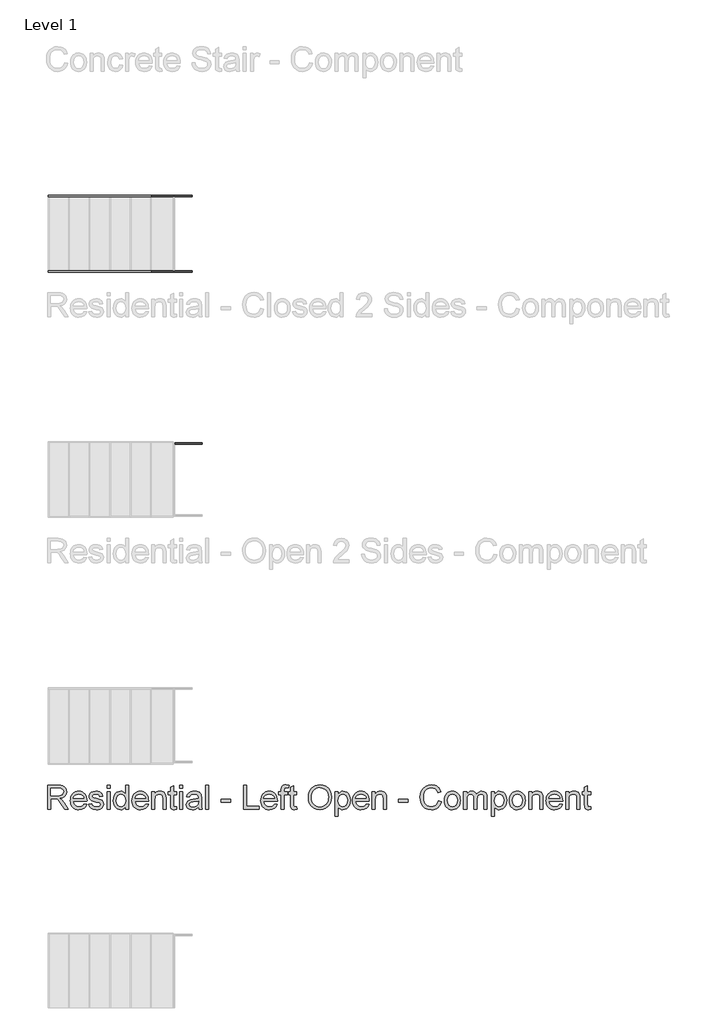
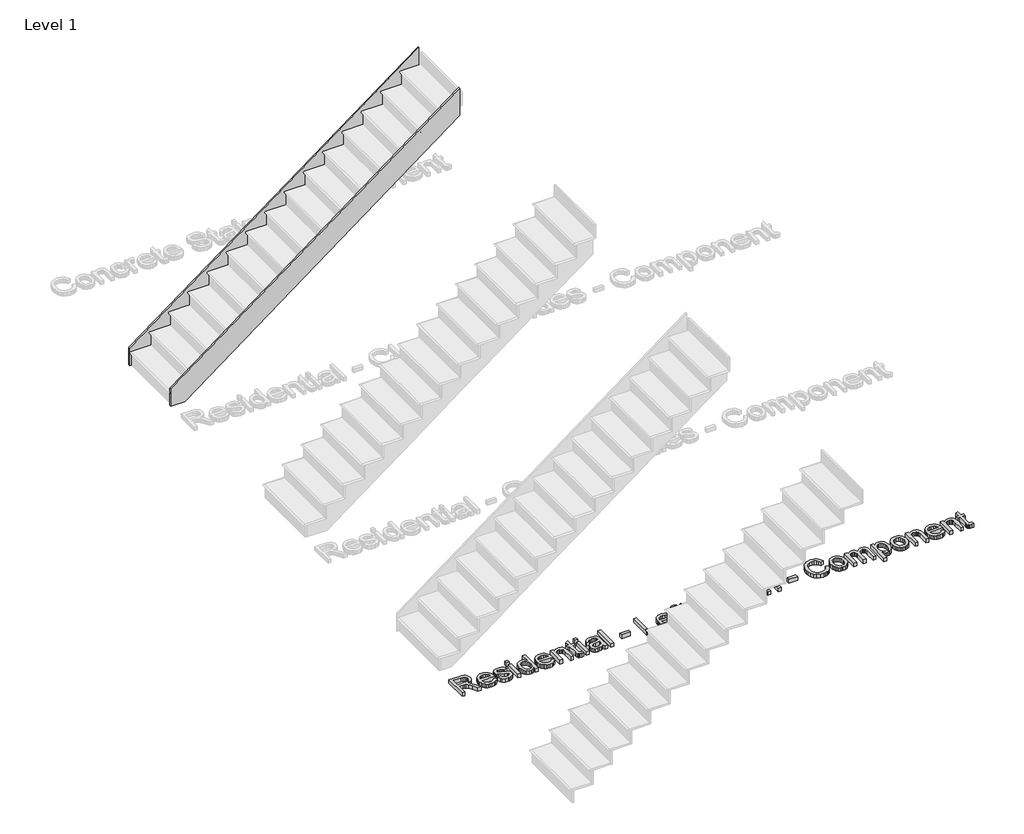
# One storey, part 14 of 26: 3 members, 1 proxy.
"""IFC4 building model written with IfcOpenShell, lengths in millimetres."""

from ifc_helpers import new_model, si_unit, frame, origin, origin_with_axes, place, context, project, spatial, polyline, outline, extrude, faceted_brep, element, save

model = new_model("IFC4")

# Units and contexts
model_context = context("Model", 3, world=origin())
ifc_project = project(units=[si_unit("LENGTHUNIT", "METRE", prefix="MILLI")], contexts=[model_context])

# Site, building, storey
site = spatial("IfcSite", under=ifc_project)
building = spatial("IfcBuilding", under=site)
storey = spatial("IfcBuildingStorey", under=building, Name="Level 1", Elevation=0.0)

# Proxy
placement = place(None, origin())
element("IfcBuildingElementProxy", 1, Name="12\" Arial", ObjectType="12\" Arial", at=placement, inside=storey, context=model_context, shape_type="SweptSolid", body=[
    extrude(outline(polyline([(-27238.310174, 321.1208755), (-27238.310174, 621.2316447), (-27108.9899817, 621.2316447), (-27074.2328904, 619.2075822), (-27048.9458471, 613.1353947), (-27030.4636837, 601.9252024), (-27016.1212317, 584.4871255), (-27006.9167846, 562.8635438), (-27003.8486356, 539.096837), (-27008.9316885, 509.5327024), (-27024.1808471, 485.0241447), (-27035.7321993, 475.0366327), (-27050.0540442, 467.0548659), (-27087.0092125, 457.1085678), (-27065.6878664, 441.0626063), (-27035.2811356, 402.4497216), (-26985.238251, 321.1208755), (-27028.8334433, 321.1208755), (-27067.8859433, 383.3264524), (-27096.0945971, 424.5037601), (-27115.913924, 443.9567409), (-27133.7549817, 451.1004909), (-27155.5159433, 452.419337), (-27200.7963279, 452.419337), (-27200.7963279, 321.1208755), (-27238.310174, 321.1208755)]), holes=[polyline([(-27200.7963279, 489.9331832), (-27116.8297894, 489.9331832), (-27092.7150539, 491.261188), (-27074.003924, 495.2452024), (-27059.9179144, 502.1508274), (-27049.6785394, 512.2436639), (-27043.4414962, 524.4521495), (-27041.3624817, 537.7047216), (-27045.3281789, 556.003712), (-27057.2252702, 570.7491447), (-27077.6948615, 580.4756351), (-27107.3780587, 583.7177986), (-27200.7963279, 583.7177986), (-27200.7963279, 489.9331832)])]), origin_with_axes(), (0.0, 0.0, 1.0), 50.8),
    extrude(outline(polyline([(-26788.5836356, 386.7701063), (-26751.8024817, 382.0808755), (-26765.0550539, 354.3667889), (-26786.2023856, 333.6499139), (-26814.7682269, 320.736212), (-26850.2763279, 316.4316447), (-26873.5530466, 318.2885618), (-26894.2928183, 323.859313), (-26912.4956428, 333.1438983), (-26928.1615202, 346.1423178), (-26940.7592486, 362.4928046), (-26949.757626, 381.8335918), (-26955.1566524, 404.1646796), (-26956.9563279, 429.4860678), (-26955.1383351, 455.6660798), (-26949.6843567, 478.7413082), (-26940.5943928, 498.7117529), (-26927.8684433, 515.5774139), (-26912.2437798, 528.9765245), (-26894.457674, 538.5473178), (-26874.510126, 544.2897938), (-26852.4011356, 546.2039524), (-26831.0042305, 544.2943731), (-26811.6542846, 538.5656351), (-26794.3512978, 529.0177385), (-26779.0952702, 515.6506832), (-26766.6417906, 498.8216567), (-26757.7464481, 478.8878466), (-26752.4092426, 455.8492529), (-26750.630174, 429.7058755), (-26750.8499817, 419.5947216), (-26919.4424817, 419.5947216), (-26912.9489962, 391.5142889), (-26897.8646933, 370.8706832), (-26876.0945731, 358.1767889), (-26849.5436356, 353.9454909), (-26829.5777702, 355.9054428), (-26812.7624817, 361.7852986), (-26799.0977702, 371.9514043), (-26788.5836356, 386.7701063)]), holes=[polyline([(-26919.4424817, 457.1085678), (-26788.1440202, 457.1085678), (-26793.2179144, 476.9278947), (-26803.1642125, 491.1054909), (-26825.0350779, 504.2939524), (-26852.547674, 508.6901063), (-26877.8347173, 505.1823418), (-26898.743924, 494.6590486), (-26913.2787077, 478.2558995), (-26919.4424817, 457.1085678)])]), origin_with_axes(), (0.0, 0.0, 1.0), 50.8),
    extrude(outline(polyline([(-26727.1840202, 386.7701063), (-26689.670174, 391.459337), (-26683.7536837, 375.4133755), (-26672.3053664, 363.6170293), (-26655.2519529, 356.3633755), (-26632.520174, 353.9454909), (-26610.0631548, 356.1618851), (-26594.2736356, 362.8110678), (-26584.9318087, 372.4459716), (-26581.8178664, 383.6195293), (-26584.950126, 393.1811639), (-26594.3469048, 400.4714524), (-26632.9597894, 411.1687601), (-26689.4503664, 429.5227024), (-26703.747025, 438.7454668), (-26714.1054625, 450.9539524), (-26720.3974577, 465.3696736), (-26722.4947894, 481.2141447), (-26720.8095971, 495.7489284), (-26715.7540202, 509.1663563), (-26707.7859914, 520.9352264), (-26697.3634433, 530.524337), (-26673.5143087, 541.6246255), (-26641.2392125, 546.2039524), (-26616.8222414, 544.363063), (-26595.5924817, 538.8403947), (-26578.520751, 530.1763082), (-26566.5778664, 518.9111639), (-26558.6647894, 504.2115245), (-26553.6824817, 485.2439524), (-26591.1963279, 480.5547216), (-26595.9313519, 492.3602264), (-26605.3006548, 501.2532793), (-26619.3958231, 506.8308995), (-26638.3084433, 508.6901063), (-26659.8495971, 506.9133274), (-26674.2103664, 501.5829909), (-26682.288299, 493.8897216), (-26684.9809433, 485.0241447), (-26680.5115202, 474.1070293), (-26666.5170971, 465.8276063), (-26634.2053664, 457.8412601), (-26579.1435394, 440.1833755), (-26564.5995971, 431.7390966), (-26553.5725779, 420.1808755), (-26546.6211596, 405.4720774), (-26544.3040202, 387.5760678), (-26547.0241404, 369.075587), (-26555.184501, 351.6741447), (-26568.4737077, 336.7363803), (-26586.5803664, 325.6269332), (-26608.4512317, 318.7304668), (-26633.0330587, 316.4316447), (-26670.858299, 320.8644332), (-26698.4624817, 334.1627986), (-26716.8896933, 356.1802024), (-26727.1840202, 386.7701063)])), origin_with_axes(), (0.0, 0.0, 1.0), 50.8),
    extrude(outline(polyline([(-26502.1009433, 321.1208755), (-26502.1009433, 541.5147216), (-26464.5870971, 541.5147216), (-26464.5870971, 321.1208755), (-26502.1009433, 321.1208755)])), origin_with_axes(), (0.0, 0.0, 1.0), 50.8),
    extrude(outline(polyline([(-26502.1009433, 583.7177986), (-26502.1009433, 621.2316447), (-26464.5870971, 621.2316447), (-26464.5870971, 583.7177986), (-26502.1009433, 583.7177986)])), origin_with_axes(), (0.0, 0.0, 1.0), 50.8),
    extrude(outline(polyline([(-26272.3286356, 321.1208755), (-26272.3286356, 356.5099139), (-26283.5525659, 338.9756712), (-26297.1485875, 326.451212), (-26313.1167005, 318.9365365), (-26331.4569048, 316.4316447), (-26355.7090202, 320.0584716), (-26377.9095971, 330.9389524), (-26396.7031548, 348.3129188), (-26410.7342125, 371.4202024), (-26419.4715683, 399.3266207), (-26422.3840202, 431.0979909), (-26419.7005346, 462.4755389), (-26411.6500779, 490.8124139), (-26398.2418087, 514.4966928), (-26379.4848856, 531.9164524), (-26356.7989, 542.6320774), (-26331.6034433, 546.2039524), (-26313.249501, 543.648688), (-26297.0203664, 535.9828947), (-26283.2640683, 524.2323418), (-26272.3286356, 509.4227986), (-26272.3286356, 621.2316447), (-26234.8147894, 621.2316447), (-26234.8147894, 321.1208755), (-26272.3286356, 321.1208755)]), holes=[polyline([(-26384.870174, 431.2445293), (-26380.638876, 397.3117168), (-26367.9449817, 373.1786639), (-26349.4994529, 358.7537841), (-26328.013251, 353.9454909), (-26306.5362077, 358.5339764), (-26288.5577702, 372.2994332), (-26276.3859192, 395.4983034), (-26272.3286356, 428.3870293), (-26276.4591885, 464.3439043), (-26288.8508471, 489.2737601), (-26307.2872173, 503.8360197), (-26329.5519048, 508.6901063), (-26351.2579144, 504.0283514), (-26369.0440202, 490.043087), (-26380.9136356, 466.019938), (-26384.870174, 431.2445293)])]), origin_with_axes(), (0.0, 0.0, 1.0), 50.8),
    extrude(outline(polyline([(-26024.2390202, 386.7701063), (-25987.4578664, 382.0808755), (-26000.7104385, 354.3667889), (-26021.8577702, 333.6499139), (-26050.4236115, 320.736212), (-26085.9317125, 316.4316447), (-26109.2084313, 318.2885618), (-26129.9482029, 323.859313), (-26148.1510274, 333.1438983), (-26163.8169048, 346.1423178), (-26176.4146332, 362.4928046), (-26185.4130106, 381.8335918), (-26190.812037, 404.1646796), (-26192.6117125, 429.4860678), (-26190.7937197, 455.6660798), (-26185.3397414, 478.7413082), (-26176.2497774, 498.7117529), (-26163.5238279, 515.5774139), (-26147.8991644, 528.9765245), (-26130.1130587, 538.5473178), (-26110.1655106, 544.2897938), (-26088.0565202, 546.2039524), (-26066.6596152, 544.2943731), (-26047.3096692, 538.5656351), (-26030.0066825, 529.0177385), (-26014.7506548, 515.6506832), (-26002.2971753, 498.8216567), (-25993.4018327, 478.8878466), (-25988.0646272, 455.8492529), (-25986.2855587, 429.7058755), (-25986.5053664, 419.5947216), (-26155.0978664, 419.5947216), (-26148.6043808, 391.5142889), (-26133.5200779, 370.8706832), (-26111.7499577, 358.1767889), (-26085.1990202, 353.9454909), (-26065.2331548, 355.9054428), (-26048.4178664, 361.7852986), (-26034.7531548, 371.9514043), (-26024.2390202, 386.7701063)]), holes=[polyline([(-26155.0978664, 457.1085678), (-26023.7994048, 457.1085678), (-26028.873299, 476.9278947), (-26038.8195971, 491.1054909), (-26060.6904625, 504.2939524), (-26088.2030587, 508.6901063), (-26113.4901019, 505.1823418), (-26134.3993087, 494.6590486), (-26148.9340923, 478.2558995), (-26155.0978664, 457.1085678)])]), origin_with_axes(), (0.0, 0.0, 1.0), 50.8),
    extrude(outline(polyline([(-25948.7717125, 321.1208755), (-25948.7717125, 541.5147216), (-25911.2578664, 541.5147216), (-25911.2578664, 510.7416447), (-25898.2251019, 526.2564043), (-25882.5729625, 537.3383755), (-25864.3014481, 543.9875582), (-25843.4105587, 546.2039524), (-25824.9192365, 544.4180149), (-25807.9848856, 539.0602024), (-25793.8622414, 530.7990966), (-25783.8060394, 520.3032793), (-25772.5592125, 492.7174139), (-25770.5809433, 456.4491447), (-25770.5809433, 321.1208755), (-25808.0947894, 321.1208755), (-25808.0947894, 451.3935678), (-25812.417674, 484.5845293), (-25818.398275, 494.4667168), (-25827.6943087, 502.1325101), (-25839.6097173, 507.0507072), (-25853.4484433, 508.6901063), (-25875.4200539, 505.0083274), (-25894.149501, 493.9629909), (-25901.6344108, 484.9462962), (-25906.980775, 472.6233274), (-25911.2578664, 438.0585678), (-25911.2578664, 321.1208755), (-25948.7717125, 321.1208755)])), origin_with_axes(), (0.0, 0.0, 1.0), 50.8),
    extrude(outline(polyline([(-25639.2824817, 352.406837), (-25634.593251, 320.021837), (-25662.6553664, 316.4316447), (-25680.6612798, 317.9886159), (-25694.0878664, 322.6595293), (-25703.5762317, 329.8582313), (-25709.7674817, 338.9985678), (-25713.174501, 354.6965005), (-25714.310174, 381.5679909), (-25714.310174, 504.0008755), (-25742.4455587, 504.0008755), (-25742.4455587, 541.5147216), (-25714.310174, 541.5147216), (-25714.310174, 595.0745293), (-25676.7963279, 617.1285678), (-25676.7963279, 541.5147216), (-25639.2824817, 541.5147216), (-25639.2824817, 504.0008755), (-25676.7963279, 504.0008755), (-25676.7963279, 382.6670293), (-25674.8180587, 363.3239524), (-25668.407001, 356.4732793), (-25655.6215202, 353.9454909), (-25639.2824817, 352.406837)])), origin_with_axes(), (0.0, 0.0, 1.0), 50.8),
    extrude(outline(polyline([(-25601.7686356, 321.1208755), (-25601.7686356, 541.5147216), (-25564.2547894, 541.5147216), (-25564.2547894, 321.1208755), (-25601.7686356, 321.1208755)])), origin_with_axes(), (0.0, 0.0, 1.0), 50.8),
    extrude(outline(polyline([(-25601.7686356, 583.7177986), (-25601.7686356, 621.2316447), (-25564.2547894, 621.2316447), (-25564.2547894, 583.7177986), (-25601.7686356, 583.7177986)])), origin_with_axes(), (0.0, 0.0, 1.0), 50.8),
    extrude(outline(polyline([(-25367.3070971, 349.2562601), (-25385.2305827, 333.8880389), (-25403.6852702, 323.831837), (-25423.0924577, 318.2816928), (-25443.8734433, 316.4316447), (-25475.2235154, 320.8827505), (-25498.3491164, 334.2360678), (-25512.6091404, 354.5133274), (-25517.3624817, 379.7362601), (-25515.5673856, 395.2876543), (-25510.1820971, 409.4102986), (-25501.8751981, 421.4997216), (-25491.3152702, 430.9514524), (-25465.048251, 443.2606832), (-25432.5899817, 448.9024139), (-25394.2335394, 454.8372216), (-25367.5269048, 461.7977986), (-25367.3070971, 470.1504909), (-25369.8898375, 486.8925101), (-25377.6380587, 497.8462601), (-25394.9662317, 505.9791447), (-25419.1084433, 508.6901063), (-25441.4555587, 506.8858514), (-25457.0619048, 501.473087), (-25467.7042606, 491.4626784), (-25475.1594048, 475.8654909), (-25512.673251, 480.5547216), (-25506.1614481, 501.0701063), (-25496.4441164, 517.189337), (-25482.614549, 529.5168851), (-25463.7660394, 538.6572216), (-25440.7137077, 544.3172697), (-25414.272674, 546.2039524), (-25388.9123615, 544.5370774), (-25368.8091164, 539.5364524), (-25353.6515442, 532.0171976), (-25343.128251, 522.7944332), (-25336.1493567, 511.3919091), (-25331.6249817, 497.3333755), (-25329.793251, 464.5087601), (-25329.793251, 417.8362601), (-25327.888251, 352.6632793), (-25320.4147894, 321.1208755), (-25357.9286356, 321.1208755), (-25367.3070971, 349.2562601)]), holes=[polyline([(-25367.3070971, 424.2839524), (-25427.8274817, 412.7806832), (-25460.1025779, 406.699337), (-25474.7197894, 396.8079909), (-25479.8486356, 382.3739524), (-25477.0552462, 371.218712), (-25468.6750779, 362.0783755), (-25454.8913039, 355.978712), (-25435.8870971, 353.9454909), (-25415.7380587, 356.1893611), (-25397.9336356, 362.9209716), (-25383.4995971, 372.8397938), (-25373.4617125, 384.6452986), (-25369.0106067, 396.8079909), (-25367.5269048, 413.6599139), (-25367.3070971, 424.2839524)])]), origin_with_axes(), (0.0, 0.0, 1.0), 50.8),
    extrude(outline(polyline([(-25278.2117125, 321.1208755), (-25278.2117125, 621.2316447), (-25240.6978664, 621.2316447), (-25240.6978664, 321.1208755), (-25278.2117125, 321.1208755)])), origin_with_axes(), (0.0, 0.0, 1.0), 50.8),
    extrude(outline(polyline([(-25085.953251, 410.2162601), (-25085.953251, 447.7301063), (-24968.7224817, 447.7301063), (-24968.7224817, 410.2162601), (-25085.953251, 410.2162601)])), origin_with_axes(), (0.0, 0.0, 1.0), 50.8),
    extrude(outline(polyline([(-24804.5994048, 321.1208755), (-24804.5994048, 621.2316447), (-24767.0855587, 621.2316447), (-24767.0855587, 358.6347216), (-24617.030174, 358.6347216), (-24617.030174, 321.1208755), (-24804.5994048, 321.1208755)])), origin_with_axes(), (0.0, 0.0, 1.0), 50.8),
    extrude(outline(polyline([(-24425.2113279, 386.7701063), (-24388.430174, 382.0808755), (-24401.6827462, 354.3667889), (-24422.8300779, 333.6499139), (-24451.3959192, 320.736212), (-24486.9040202, 316.4316447), (-24510.180739, 318.2885618), (-24530.9205106, 323.859313), (-24549.1233351, 333.1438983), (-24564.7892125, 346.1423178), (-24577.3869409, 362.4928046), (-24586.3853183, 381.8335918), (-24591.7843447, 404.1646796), (-24593.5840202, 429.4860678), (-24591.7660274, 455.6660798), (-24586.312049, 478.7413082), (-24577.2220851, 498.7117529), (-24564.4961356, 515.5774139), (-24548.8714721, 528.9765245), (-24531.0853664, 538.5473178), (-24511.1378183, 544.2897938), (-24489.0288279, 546.2039524), (-24467.6319228, 544.2943731), (-24448.2819769, 538.5656351), (-24430.9789902, 529.0177385), (-24415.7229625, 515.6506832), (-24403.2694829, 498.8216567), (-24394.3741404, 478.8878466), (-24389.0369349, 455.8492529), (-24387.2578664, 429.7058755), (-24387.477674, 419.5947216), (-24556.070174, 419.5947216), (-24549.5766885, 391.5142889), (-24534.4923856, 370.8706832), (-24512.7222654, 358.1767889), (-24486.1713279, 353.9454909), (-24466.2054625, 355.9054428), (-24449.390174, 361.7852986), (-24435.7254625, 371.9514043), (-24425.2113279, 386.7701063)]), holes=[polyline([(-24556.070174, 457.1085678), (-24424.7717125, 457.1085678), (-24429.8456067, 476.9278947), (-24439.7919048, 491.1054909), (-24461.6627702, 504.2939524), (-24489.1753664, 508.6901063), (-24514.4624096, 505.1823418), (-24535.3716164, 494.6590486), (-24549.9064, 478.2558995), (-24556.070174, 457.1085678)])]), origin_with_axes(), (0.0, 0.0, 1.0), 50.8),
    extrude(outline(polyline([(-24340.3655587, 321.1208755), (-24340.3655587, 504.0008755), (-24373.190174, 504.0008755), (-24373.190174, 541.5147216), (-24340.3655587, 541.5147216), (-24340.3655587, 563.7152986), (-24336.4090202, 595.0012601), (-24328.8622894, 607.4753466), (-24317.2124817, 617.3483755), (-24300.9100779, 623.7777505), (-24279.4055587, 625.9208755), (-24245.1888279, 621.8177986), (-24250.6840202, 586.6485678), (-24272.2984433, 588.4070293), (-24286.5584673, 586.8500582), (-24295.9277702, 582.1791447), (-24301.1207269, 573.2586159), (-24302.8517125, 558.9527986), (-24302.8517125, 541.5147216), (-24260.6486356, 541.5147216), (-24260.6486356, 504.0008755), (-24302.8517125, 504.0008755), (-24302.8517125, 321.1208755), (-24340.3655587, 321.1208755)])), origin_with_axes(), (0.0, 0.0, 1.0), 50.8),
    extrude(outline(polyline([(-24148.1070971, 352.406837), (-24143.4178664, 320.021837), (-24171.4799817, 316.4316447), (-24189.4858952, 317.9886159), (-24202.9124817, 322.6595293), (-24212.4008471, 329.8582313), (-24218.5920971, 338.9985678), (-24221.9991164, 354.6965005), (-24223.1347894, 381.5679909), (-24223.1347894, 504.0008755), (-24251.270174, 504.0008755), (-24251.270174, 541.5147216), (-24223.1347894, 541.5147216), (-24223.1347894, 595.0745293), (-24185.6209433, 617.1285678), (-24185.6209433, 541.5147216), (-24148.1070971, 541.5147216), (-24148.1070971, 504.0008755), (-24185.6209433, 504.0008755), (-24185.6209433, 382.6670293), (-24183.642674, 363.3239524), (-24177.2316164, 356.4732793), (-24164.4461356, 353.9454909), (-24148.1070971, 352.406837)])), origin_with_axes(), (0.0, 0.0, 1.0), 50.8),
    extrude(outline(polyline([(-24002.7409433, 467.2197216), (-24000.2406308, 502.4210077), (-23992.7396933, 533.5833274), (-23980.2381308, 560.7066808), (-23962.7359433, 583.7910678), (-23941.2817966, 602.2228587), (-23916.9243567, 615.3884236), (-23889.6636236, 623.2877625), (-23859.4995971, 625.9208755), (-23820.1357029, 620.9752024), (-23784.838251, 606.1381832), (-23755.5305587, 582.4539043), (-23734.1359433, 550.9664524), (-23721.0573856, 513.1961639), (-23716.6978664, 470.6633755), (-23721.2863519, 427.5627505), (-23735.0518087, 389.2612601), (-23757.2340683, 357.7188563), (-23787.0729625, 334.8954909), (-23822.0681789, 321.0476063), (-23859.7194048, 316.4316447), (-23899.6877702, 321.5330149), (-23935.1867125, 336.8371255), (-23964.4211356, 360.9610197), (-23985.5959433, 392.5217409), (-23998.4546933, 428.8358034), (-24002.7409433, 467.2197216)]), holes=[polyline([(-23965.2270971, 466.8533755), (-23963.3518628, 441.983051), (-23957.7261596, 419.9061159), (-23948.3499878, 400.6225702), (-23935.2233471, 384.1324139), (-23919.2666825, 370.9256351), (-23901.4004385, 361.4922216), (-23881.6246152, 355.8321736), (-23859.9392125, 353.9454909), (-23837.8828844, 355.8504909), (-23817.8735154, 361.5654909), (-23799.9111055, 371.0904909), (-23783.9956548, 384.4254909), (-23770.9651801, 401.263676), (-23761.6576981, 421.2982313), (-23756.0732089, 444.5291567), (-23754.2117125, 470.9564524), (-23757.398924, 504.1657313), (-23766.9605587, 532.8689524), (-23782.6493327, 556.3425822), (-23804.2179625, 573.863087), (-23830.2376981, 584.7710438), (-23859.2797894, 588.4070293), (-23880.2118928, 586.6554368), (-23899.6328183, 581.4006591), (-23917.5425659, 572.6426964), (-23933.9411356, 560.3815486), (-23947.6287438, 544.0264825), (-23957.4056067, 522.9867649), (-23963.2717245, 497.2623959), (-23965.2270971, 466.8533755)])]), origin_with_axes(), (0.0, 0.0, 1.0), 50.8),
    extrude(outline(polyline([(-23669.8055587, 236.7147216), (-23669.8055587, 541.5147216), (-23632.2917125, 541.5147216), (-23632.2917125, 504.7335678), (-23620.055751, 522.8768611), (-23606.3544048, 535.8363563), (-23590.3817125, 543.6120534), (-23571.3317125, 546.2039524), (-23545.9622414, 542.5771255), (-23523.7799817, 531.6966447), (-23505.7191164, 514.2219332), (-23492.7138279, 490.8124139), (-23484.8557029, 463.1715966), (-23482.2363279, 433.0029909), (-23485.1945731, 400.9202264), (-23494.0693087, 372.2261639), (-23508.5766164, 348.3770293), (-23528.4325779, 330.8290486), (-23551.5581789, 320.0309957), (-23575.8744048, 316.4316447), (-23593.12015, 318.8403707), (-23608.5158471, 326.0665486), (-23621.69515, 336.9745053), (-23632.2917125, 350.4285678), (-23632.2917125, 236.7147216), (-23669.8055587, 236.7147216)]), holes=[polyline([(-23632.2917125, 429.559337), (-23628.2344289, 395.9287601), (-23616.0625779, 372.409337), (-23598.1024577, 358.5614524), (-23576.6803664, 353.9454909), (-23554.9102462, 358.7263082), (-23536.4921933, 373.0687601), (-23523.9356789, 397.4490966), (-23519.750174, 432.3435678), (-23523.8349337, 465.7909716), (-23536.0892125, 489.6401063), (-23554.0218567, 503.9276063), (-23575.1417125, 508.6901063), (-23596.3439962, 503.6253707), (-23614.9635394, 488.4311639), (-23627.9596692, 463.5837361), (-23632.2917125, 429.559337)])]), origin_with_axes(), (0.0, 0.0, 1.0), 50.8),
    extrude(outline(polyline([(-23285.728251, 386.7701063), (-23248.9470971, 382.0808755), (-23262.1996692, 354.3667889), (-23283.347001, 333.6499139), (-23311.9128423, 320.736212), (-23347.4209433, 316.4316447), (-23370.697662, 318.2885618), (-23391.4374337, 323.859313), (-23409.6402582, 333.1438983), (-23425.3061356, 346.1423178), (-23437.903864, 362.4928046), (-23446.9022414, 381.8335918), (-23452.3012678, 404.1646796), (-23454.1009433, 429.4860678), (-23452.2829505, 455.6660798), (-23446.8289721, 478.7413082), (-23437.7390082, 498.7117529), (-23425.0130587, 515.5774139), (-23409.3883952, 528.9765245), (-23391.6022894, 538.5473178), (-23371.6547414, 544.2897938), (-23349.545751, 546.2039524), (-23328.1488459, 544.2943731), (-23308.7989, 538.5656351), (-23291.4959132, 529.0177385), (-23276.2398856, 515.6506832), (-23263.786406, 498.8216567), (-23254.8910635, 478.8878466), (-23249.5538579, 455.8492529), (-23247.7747894, 429.7058755), (-23247.9945971, 419.5947216), (-23416.5870971, 419.5947216), (-23410.0936115, 391.5142889), (-23395.0093087, 370.8706832), (-23373.2391885, 358.1767889), (-23346.688251, 353.9454909), (-23326.7223856, 355.9054428), (-23309.9070971, 361.7852986), (-23296.2423856, 371.9514043), (-23285.728251, 386.7701063)]), holes=[polyline([(-23416.5870971, 457.1085678), (-23285.2886356, 457.1085678), (-23290.3625298, 476.9278947), (-23300.3088279, 491.1054909), (-23322.1796933, 504.2939524), (-23349.6922894, 508.6901063), (-23374.9793327, 505.1823418), (-23395.8885394, 494.6590486), (-23410.4233231, 478.2558995), (-23416.5870971, 457.1085678)])]), origin_with_axes(), (0.0, 0.0, 1.0), 50.8),
    extrude(outline(polyline([(-23210.2609433, 321.1208755), (-23210.2609433, 541.5147216), (-23172.7470971, 541.5147216), (-23172.7470971, 510.7416447), (-23159.7143327, 526.2564043), (-23144.0621933, 537.3383755), (-23125.7906789, 543.9875582), (-23104.8997894, 546.2039524), (-23086.4084673, 544.4180149), (-23069.4741164, 539.0602024), (-23055.3514721, 530.7990966), (-23045.2952702, 520.3032793), (-23034.0484433, 492.7174139), (-23032.070174, 456.4491447), (-23032.070174, 321.1208755), (-23069.5840202, 321.1208755), (-23069.5840202, 451.3935678), (-23073.9069048, 484.5845293), (-23079.8875058, 494.4667168), (-23089.1835394, 502.1325101), (-23101.0989481, 507.0507072), (-23114.937674, 508.6901063), (-23136.9092846, 505.0083274), (-23155.6387317, 493.9629909), (-23163.1236416, 484.9462962), (-23168.4700058, 472.6233274), (-23172.7470971, 438.0585678), (-23172.7470971, 321.1208755), (-23210.2609433, 321.1208755)])), origin_with_axes(), (0.0, 0.0, 1.0), 50.8),
    extrude(outline(polyline([(-22882.0147894, 410.2162601), (-22882.0147894, 447.7301063), (-22764.7840202, 447.7301063), (-22764.7840202, 410.2162601), (-22882.0147894, 410.2162601)])), origin_with_axes(), (0.0, 0.0, 1.0), 50.8),
    extrude(outline(polyline([(-22389.6455587, 427.8008755), (-22352.1317125, 418.129337), (-22359.5548015, 394.799956), (-22369.4415683, 374.4150822), (-22381.792013, 356.9747156), (-22396.6061356, 342.4788563), (-22413.5496452, 331.0832012), (-22432.288251, 322.9434476), (-22452.8219529, 318.0595954), (-22475.150751, 316.4316447), (-22518.6635154, 321.3590005), (-22553.2191164, 336.1410678), (-22579.7059433, 360.264962), (-22599.0123856, 393.2177986), (-22610.7995731, 431.9589043), (-22614.7286356, 473.4476063), (-22610.2866885, 517.2076543), (-22596.9608471, 554.9962601), (-22575.4471692, 585.6136399), (-22546.4417125, 607.8600101), (-22512.0418087, 621.4056591), (-22474.3447894, 625.9208755), (-22433.213275, 620.0776543), (-22415.3195551, 612.7736279), (-22399.2071933, 602.5479909), (-22385.1417906, 589.6709236), (-22373.3889481, 574.4126063), (-22356.8209433, 536.7522216), (-22394.3347894, 527.8133755), (-22407.3400779, 555.1702745), (-22425.1078664, 573.9363563), (-22447.8579625, 584.7893611), (-22475.810174, 588.4070293), (-22508.0303183, 584.3955389), (-22534.4988279, 572.3610678), (-22554.5837558, 553.5675101), (-22567.6531548, 529.2787601), (-22574.8243808, 501.8211159), (-22577.2147894, 473.5208755), (-22574.3847654, 438.8645293), (-22565.8946933, 408.8974139), (-22551.4240202, 384.7643611), (-22530.6521933, 367.6102024), (-22505.7498135, 357.3616688), (-22478.8874817, 353.9454909), (-22447.5740442, 358.598087), (-22421.4810394, 372.5558755), (-22401.780775, 395.6723178), (-22389.6455587, 427.8008755)])), origin_with_axes(), (0.0, 0.0, 1.0), 50.8),
    extrude(outline(polyline([(-22314.6178664, 431.3177986), (-22312.5892245, 459.8607433), (-22306.503299, 484.4563082), (-22296.3600899, 505.1044933), (-22282.1595971, 521.8052986), (-22267.8629385, 532.4797096), (-22252.0825779, 540.1042889), (-22234.8185154, 544.6790365), (-22216.070751, 546.2039524), (-22195.3744829, 544.3470353), (-22176.6610635, 538.7762841), (-22159.9304926, 529.4916988), (-22145.1827702, 516.4932793), (-22133.1460094, 500.2206411), (-22124.5483231, 481.1133995), (-22119.3897113, 459.1715546), (-22117.670174, 434.3951063), (-22120.7108471, 396.4965966), (-22129.8328664, 367.646837), (-22144.7706308, 346.0415726), (-22165.2585394, 329.8765486), (-22189.5930827, 319.7928707), (-22216.070751, 316.4316447), (-22237.0692546, 318.2816928), (-22255.9566885, 323.831837), (-22272.7330527, 333.0820774), (-22287.3983471, 346.0324139), (-22299.3068868, 362.4630389), (-22307.8129865, 382.1541447), (-22312.9166464, 405.1057313), (-22314.6178664, 431.3177986)]), holes=[polyline([(-22277.1040202, 431.3910678), (-22272.7628183, 397.439938), (-22259.7392125, 373.2519332), (-22240.1396933, 358.7721014), (-22216.070751, 353.9454909), (-22192.1117125, 358.7995774), (-22172.5488279, 373.361837), (-22159.5252221, 397.8703947), (-22155.1840202, 432.5633755), (-22159.5526981, 465.5253707), (-22172.6587317, 489.3836639), (-22192.2490923, 503.8634957), (-22216.070751, 508.6901063), (-22240.1396933, 503.881813), (-22259.7392125, 489.4569332), (-22272.7628183, 465.3238803), (-22277.1040202, 431.3910678)])]), origin_with_axes(), (0.0, 0.0, 1.0), 50.8),
    extrude(outline(polyline([(-22075.4670971, 321.1208755), (-22075.4670971, 541.5147216), (-22037.953251, 541.5147216), (-22037.953251, 505.2464524), (-22026.6697894, 521.9060438), (-22012.1624817, 534.9571255), (-21994.9258952, 543.3922457), (-21975.4545971, 546.2039524), (-21954.5911837, 543.3372938), (-21937.8674817, 534.7373178), (-21925.3750779, 520.9718611), (-21917.2055587, 502.6087601), (-21903.5316885, 521.6816567), (-21887.934501, 535.3051543), (-21870.4139962, 543.4792529), (-21850.970174, 546.2039524), (-21822.7706789, 541.6704188), (-21801.916424, 528.0698178), (-21789.0301981, 505.0358034), (-21784.7347894, 472.2020293), (-21784.7347894, 321.1208755), (-21822.2486356, 321.1208755), (-21822.2486356, 456.0827986), (-21825.728924, 487.4053947), (-21830.6196452, 496.0420053), (-21838.3312317, 502.8285678), (-21848.2500539, 507.2247216), (-21859.7624817, 508.6901063), (-21880.0855346, 504.9350582), (-21896.6535394, 493.6699139), (-21907.6714, 474.1253466), (-21911.3440202, 445.5320293), (-21911.3440202, 321.1208755), (-21948.8578664, 321.1208755), (-21948.8578664, 460.2591447), (-21951.0284673, 481.470587), (-21957.5402702, 496.6006832), (-21968.9977462, 505.6677505), (-21986.0053664, 508.6901063), (-22000.4577221, 506.6752024), (-22013.7744048, 500.6304909), (-22024.7647894, 490.7025101), (-22032.238251, 477.0377986), (-22036.524501, 458.0793851), (-22037.953251, 432.2702986), (-22037.953251, 321.1208755), (-22075.4670971, 321.1208755)])), origin_with_axes(), (0.0, 0.0, 1.0), 50.8),
    extrude(outline(polyline([(-21728.4640202, 236.7147216), (-21728.4640202, 541.5147216), (-21690.950174, 541.5147216), (-21690.950174, 504.7335678), (-21678.7142125, 522.8768611), (-21665.0128664, 535.8363563), (-21649.040174, 543.6120534), (-21629.990174, 546.2039524), (-21604.6207029, 542.5771255), (-21582.4384433, 531.6966447), (-21564.3775779, 514.2219332), (-21551.3722894, 490.8124139), (-21543.5141644, 463.1715966), (-21540.8947894, 433.0029909), (-21543.8530346, 400.9202264), (-21552.7277702, 372.2261639), (-21567.2350779, 348.3770293), (-21587.0910394, 330.8290486), (-21610.2166404, 320.0309957), (-21634.5328664, 316.4316447), (-21651.7786115, 318.8403707), (-21667.1743087, 326.0665486), (-21680.3536115, 336.9745053), (-21690.950174, 350.4285678), (-21690.950174, 236.7147216), (-21728.4640202, 236.7147216)]), holes=[polyline([(-21690.950174, 429.559337), (-21686.8928904, 395.9287601), (-21674.7210394, 372.409337), (-21656.7609192, 358.5614524), (-21635.3388279, 353.9454909), (-21613.5687077, 358.7263082), (-21595.1506548, 373.0687601), (-21582.5941404, 397.4490966), (-21578.4086356, 432.3435678), (-21582.4933952, 465.7909716), (-21594.747674, 489.6401063), (-21612.6803183, 503.9276063), (-21633.800174, 508.6901063), (-21655.0024577, 503.6253707), (-21673.622001, 488.4311639), (-21686.6181308, 463.5837361), (-21690.950174, 429.559337)])]), origin_with_axes(), (0.0, 0.0, 1.0), 50.8),
    extrude(outline(polyline([(-21508.070174, 431.3177986), (-21506.0415322, 459.8607433), (-21499.9556067, 484.4563082), (-21489.8123976, 505.1044933), (-21475.6119048, 521.8052986), (-21461.3152462, 532.4797096), (-21445.5348856, 540.1042889), (-21428.2708231, 544.6790365), (-21409.5230587, 546.2039524), (-21388.8267906, 544.3470353), (-21370.1133712, 538.7762841), (-21353.3828003, 529.4916988), (-21338.6350779, 516.4932793), (-21326.5983171, 500.2206411), (-21318.0006308, 481.1133995), (-21312.842019, 459.1715546), (-21311.1224817, 434.3951063), (-21314.1631548, 396.4965966), (-21323.285174, 367.646837), (-21338.2229385, 346.0415726), (-21358.7108471, 329.8765486), (-21383.0453904, 319.7928707), (-21409.5230587, 316.4316447), (-21430.5215623, 318.2816928), (-21449.4089962, 323.831837), (-21466.1853603, 333.0820774), (-21480.8506548, 346.0324139), (-21492.7591945, 362.4630389), (-21501.2652942, 382.1541447), (-21506.3689541, 405.1057313), (-21508.070174, 431.3177986)]), holes=[polyline([(-21470.5563279, 431.3910678), (-21466.215126, 397.439938), (-21453.1915202, 373.2519332), (-21433.592001, 358.7721014), (-21409.5230587, 353.9454909), (-21385.5640202, 358.7995774), (-21366.0011356, 373.361837), (-21352.9775298, 397.8703947), (-21348.6363279, 432.5633755), (-21353.0050058, 465.5253707), (-21366.1110394, 489.3836639), (-21385.7014, 503.8634957), (-21409.5230587, 508.6901063), (-21433.592001, 503.881813), (-21453.1915202, 489.4569332), (-21466.215126, 465.3238803), (-21470.5563279, 431.3910678)])]), origin_with_axes(), (0.0, 0.0, 1.0), 50.8),
    extrude(outline(polyline([(-21268.9194048, 321.1208755), (-21268.9194048, 541.5147216), (-21231.4055587, 541.5147216), (-21231.4055587, 510.7416447), (-21218.3727942, 526.2564043), (-21202.7206548, 537.3383755), (-21184.4491404, 543.9875582), (-21163.558251, 546.2039524), (-21145.0669289, 544.4180149), (-21128.1325779, 539.0602024), (-21114.0099337, 530.7990966), (-21103.9537317, 520.3032793), (-21092.7069048, 492.7174139), (-21090.7286356, 456.4491447), (-21090.7286356, 321.1208755), (-21128.2424817, 321.1208755), (-21128.2424817, 451.3935678), (-21132.5653664, 484.5845293), (-21138.5459673, 494.4667168), (-21147.842001, 502.1325101), (-21159.7574096, 507.0507072), (-21173.5961356, 508.6901063), (-21195.5677462, 505.0083274), (-21214.2971933, 493.9629909), (-21221.7821031, 484.9462962), (-21227.1284673, 472.6233274), (-21231.4055587, 438.0585678), (-21231.4055587, 321.1208755), (-21268.9194048, 321.1208755)])), origin_with_axes(), (0.0, 0.0, 1.0), 50.8),
    extrude(outline(polyline([(-20884.8420971, 386.7701063), (-20848.0609433, 382.0808755), (-20861.3135154, 354.3667889), (-20882.4608471, 333.6499139), (-20911.0266885, 320.736212), (-20946.5347894, 316.4316447), (-20969.8115082, 318.2885618), (-20990.5512798, 323.859313), (-21008.7541043, 333.1438983), (-21024.4199817, 346.1423178), (-21037.0177101, 362.4928046), (-21046.0160875, 381.8335918), (-21051.415114, 404.1646796), (-21053.2147894, 429.4860678), (-21051.3967966, 455.6660798), (-21045.9428183, 478.7413082), (-21036.8528543, 498.7117529), (-21024.1269048, 515.5774139), (-21008.5022414, 528.9765245), (-20990.7161356, 538.5473178), (-20970.7685875, 544.2897938), (-20948.6595971, 546.2039524), (-20927.2626921, 544.2943731), (-20907.9127462, 538.5656351), (-20890.6097594, 529.0177385), (-20875.3537317, 515.6506832), (-20862.9002522, 498.8216567), (-20854.0049096, 478.8878466), (-20848.6677041, 455.8492529), (-20846.8886356, 429.7058755), (-20847.1084433, 419.5947216), (-21015.7009433, 419.5947216), (-21009.2074577, 391.5142889), (-20994.1231548, 370.8706832), (-20972.3530346, 358.1767889), (-20945.8020971, 353.9454909), (-20925.8362317, 355.9054428), (-20909.0209433, 361.7852986), (-20895.3562317, 371.9514043), (-20884.8420971, 386.7701063)]), holes=[polyline([(-21015.7009433, 457.1085678), (-20884.4024817, 457.1085678), (-20889.476376, 476.9278947), (-20899.422674, 491.1054909), (-20921.2935394, 504.2939524), (-20948.8061356, 508.6901063), (-20974.0931789, 505.1823418), (-20995.0023856, 494.6590486), (-21009.5371692, 478.2558995), (-21015.7009433, 457.1085678)])]), origin_with_axes(), (0.0, 0.0, 1.0), 50.8),
    extrude(outline(polyline([(-20809.3747894, 321.1208755), (-20809.3747894, 541.5147216), (-20771.8609433, 541.5147216), (-20771.8609433, 510.7416447), (-20758.8281789, 526.2564043), (-20743.1760394, 537.3383755), (-20724.904525, 543.9875582), (-20704.0136356, 546.2039524), (-20685.5223135, 544.4180149), (-20668.5879625, 539.0602024), (-20654.4653183, 530.7990966), (-20644.4091164, 520.3032793), (-20633.1622894, 492.7174139), (-20631.1840202, 456.4491447), (-20631.1840202, 321.1208755), (-20668.6978664, 321.1208755), (-20668.6978664, 451.3935678), (-20673.020751, 484.5845293), (-20679.0013519, 494.4667168), (-20688.2973856, 502.1325101), (-20700.2127942, 507.0507072), (-20714.0515202, 508.6901063), (-20736.0231308, 505.0083274), (-20754.7525779, 493.9629909), (-20762.2374878, 484.9462962), (-20767.5838519, 472.6233274), (-20771.8609433, 438.0585678), (-20771.8609433, 321.1208755), (-20809.3747894, 321.1208755)])), origin_with_axes(), (0.0, 0.0, 1.0), 50.8),
    extrude(outline(polyline([(-20499.8855587, 352.406837), (-20495.1963279, 320.021837), (-20523.2584433, 316.4316447), (-20541.2643567, 317.9886159), (-20554.6909433, 322.6595293), (-20564.1793087, 329.8582313), (-20570.3705587, 338.9985678), (-20573.7775779, 354.6965005), (-20574.913251, 381.5679909), (-20574.913251, 504.0008755), (-20603.0486356, 504.0008755), (-20603.0486356, 541.5147216), (-20574.913251, 541.5147216), (-20574.913251, 595.0745293), (-20537.3994048, 617.1285678), (-20537.3994048, 541.5147216), (-20499.8855587, 541.5147216), (-20499.8855587, 504.0008755), (-20537.3994048, 504.0008755), (-20537.3994048, 382.6670293), (-20535.4211356, 363.3239524), (-20529.0100779, 356.4732793), (-20516.2245971, 353.9454909), (-20499.8855587, 352.406837)])), origin_with_axes(), (0.0, 0.0, 1.0), 50.8),
])

# Members
element("IfcMember", 2, ObjectType="Stringer - Unassigned - 3/4\" Width (1)", at=placement, inside=storey, context=model_context, shape_type="SweptSolid", body=[
    extrude(outline(polyline([(242.8875, -27230.8481446), (0.0, -27230.8481446), (0.0, -27046.6981446), (2719.3875, -23420.8481446), (3100.3875, -23420.8481446), (242.8875, -27230.8481446)])), frame((0.0, 7918.3128094, 0.0), z_axis=(0.0, 1.0, 0.0), x_axis=(0.0, 0.0, 1.0)), (0.0, 0.0, 1.0), 19.05),
])
element("IfcMember", 3, ObjectType="Stringer - Unassigned - 3/4\" Width (1)", at=placement, inside=storey, context=model_context, shape_type="SweptSolid", body=[
    extrude(outline(polyline([(242.8875, -27230.8481446), (0.0, -27230.8481446), (0.0, -27046.6981446), (2719.3875, -23420.8481446), (3100.3875, -23420.8481446), (242.8875, -27230.8481446)])), frame((0.0, 6984.8628094, 0.0), z_axis=(0.0, 1.0, 0.0), x_axis=(0.0, 0.0, 1.0)), (0.0, 0.0, 1.0), 19.05),
])
element("IfcMember", 4, ObjectType="Stringer - Unassigned - 3/4\" Width (1)", at=placement, inside=storey, context=model_context, shape_type="Brep", body=[
    faceted_brep([(-27186.3981446, 4870.3128094, 0.0), (-26919.6981446, 4870.3128094, 0.0), (-26919.6981446, 4851.2628094, 0.0), (-27186.3981446, 4851.2628094, 0.0), (-23420.8481446, 4851.2628094, 2624.1375), (-23420.8481446, 4870.3128094, 2624.1375), (-23420.8481446, 4870.3128094, 2832.1), (-23420.8481446, 4851.2628094, 2832.1), (-26678.3981446, 4870.3128094, 180.975), (-26424.3981446, 4870.3128094, 371.475), (-26170.3981446, 4870.3128094, 561.975), (-25916.3981446, 4870.3128094, 752.475), (-25662.3981446, 4870.3128094, 942.975), (-25408.3981446, 4870.3128094, 1133.475), (-25154.3981446, 4870.3128094, 1323.975), (-24900.3981446, 4870.3128094, 1514.475), (-24646.3981446, 4870.3128094, 1704.975), (-24392.3981446, 4870.3128094, 1895.475), (-24138.3981446, 4870.3128094, 2085.975), (-23884.3981446, 4870.3128094, 2276.475), (-23630.3981446, 4870.3128094, 2466.975), (-27186.3981446, 4870.3128094, 157.1625), (-27175.8148113, 4870.3128094, 165.1), (-26932.3981446, 4870.3128094, 165.1), (-26932.3981446, 4870.3128094, 347.6625), (-26921.8148113, 4870.3128094, 355.6), (-26678.3981446, 4870.3128094, 355.6), (-26678.3981446, 4870.3128094, 538.1625), (-26667.8148113, 4870.3128094, 546.1), (-26424.3981446, 4870.3128094, 546.1), (-26424.3981446, 4870.3128094, 728.6625), (-26413.8148113, 4870.3128094, 736.6), (-26170.3981446, 4870.3128094, 736.6), (-26170.3981446, 4870.3128094, 919.1625), (-26159.8148113, 4870.3128094, 927.1), (-25916.3981446, 4870.3128094, 927.1), (-25916.3981446, 4870.3128094, 1109.6625), (-25905.8148113, 4870.3128094, 1117.6), (-25662.3981446, 4870.3128094, 1117.6), (-25662.3981446, 4870.3128094, 1300.1625), (-25651.8148113, 4870.3128094, 1308.1), (-25408.3981446, 4870.3128094, 1308.1), (-25408.3981446, 4870.3128094, 1490.6625), (-25397.8148113, 4870.3128094, 1498.6), (-25154.3981446, 4870.3128094, 1498.6), (-25154.3981446, 4870.3128094, 1681.1625), (-25143.8148113, 4870.3128094, 1689.1), (-24900.3981446, 4870.3128094, 1689.1), (-24900.3981446, 4870.3128094, 1871.6625), (-24889.8148113, 4870.3128094, 1879.6), (-24646.3981446, 4870.3128094, 1879.6), (-24646.3981446, 4870.3128094, 2062.1625), (-24635.8148113, 4870.3128094, 2070.1), (-24392.3981446, 4870.3128094, 2070.1), (-24392.3981446, 4870.3128094, 2252.6625), (-24381.8148113, 4870.3128094, 2260.6), (-24138.3981446, 4870.3128094, 2260.6), (-24138.3981446, 4870.3128094, 2443.1625), (-24127.8148113, 4870.3128094, 2451.1), (-23884.3981446, 4870.3128094, 2451.1), (-23884.3981446, 4870.3128094, 2633.6625), (-23873.8148113, 4870.3128094, 2641.6), (-23630.3981446, 4870.3128094, 2641.6), (-23630.3981446, 4870.3128094, 2824.1625), (-23619.8148113, 4870.3128094, 2832.1), (-23619.8148113, 4851.2628094, 2832.1), (-23630.3981446, 4851.2628094, 2824.1625), (-23630.3981446, 4851.2628094, 2641.6), (-23873.8148113, 4851.2628094, 2641.6), (-23884.3981446, 4851.2628094, 2633.6625), (-23884.3981446, 4851.2628094, 2451.1), (-24127.8148113, 4851.2628094, 2451.1), (-24138.3981446, 4851.2628094, 2443.1625), (-24138.3981446, 4851.2628094, 2260.6), (-24381.8148113, 4851.2628094, 2260.6), (-24392.3981446, 4851.2628094, 2252.6625), (-24392.3981446, 4851.2628094, 2070.1), (-24635.8148113, 4851.2628094, 2070.1), (-24646.3981446, 4851.2628094, 2062.1625), (-24646.3981446, 4851.2628094, 1879.6), (-24889.8148113, 4851.2628094, 1879.6), (-24900.3981446, 4851.2628094, 1871.6625), (-24900.3981446, 4851.2628094, 1689.1), (-25143.8148113, 4851.2628094, 1689.1), (-25154.3981446, 4851.2628094, 1681.1625), (-25154.3981446, 4851.2628094, 1498.6), (-25397.8148113, 4851.2628094, 1498.6), (-25408.3981446, 4851.2628094, 1490.6625), (-25408.3981446, 4851.2628094, 1308.1), (-25651.8148113, 4851.2628094, 1308.1), (-25662.3981446, 4851.2628094, 1300.1625), (-25662.3981446, 4851.2628094, 1117.6), (-25905.8148113, 4851.2628094, 1117.6), (-25916.3981446, 4851.2628094, 1109.6625), (-25916.3981446, 4851.2628094, 927.1), (-26159.8148113, 4851.2628094, 927.1), (-26170.3981446, 4851.2628094, 919.1625), (-26170.3981446, 4851.2628094, 736.6), (-26413.8148113, 4851.2628094, 736.6), (-26424.3981446, 4851.2628094, 728.6625), (-26424.3981446, 4851.2628094, 546.1), (-26667.8148113, 4851.2628094, 546.1), (-26678.3981446, 4851.2628094, 538.1625), (-26678.3981446, 4851.2628094, 355.6), (-26921.8148113, 4851.2628094, 355.6), (-26932.3981446, 4851.2628094, 347.6625), (-26932.3981446, 4851.2628094, 165.1), (-27175.8148113, 4851.2628094, 165.1), (-27186.3981446, 4851.2628094, 157.1625)], [[[0, 1, 2, 3]], [[4, 5, 6, 7]], [[5, 4, 2, 1, 8, 9, 10, 11, 12, 13, 14, 15, 16, 17, 18, 19, 20]], [[6, 5, 20, 19, 18, 17, 16, 15, 14, 13, 12, 11, 10, 9, 8, 1, 0, 21, 22, 23, 24, 25, 26, 27, 28, 29, 30, 31, 32, 33, 34, 35, 36, 37, 38, 39, 40, 41, 42, 43, 44, 45, 46, 47, 48, 49, 50, 51, 52, 53, 54, 55, 56, 57, 58, 59, 60, 61, 62, 63, 64]], [[7, 6, 64, 65]], [[4, 7, 65, 66, 67, 68, 69, 70, 71, 72, 73, 74, 75, 76, 77, 78, 79, 80, 81, 82, 83, 84, 85, 86, 87, 88, 89, 90, 91, 92, 93, 94, 95, 96, 97, 98, 99, 100, 101, 102, 103, 104, 105, 106, 107, 108, 3, 2]], [[108, 107, 22, 21]], [[105, 104, 25, 24]], [[102, 101, 28, 27]], [[99, 98, 31, 30]], [[96, 95, 34, 33]], [[93, 92, 37, 36]], [[90, 89, 40, 39]], [[87, 86, 43, 42]], [[84, 83, 46, 45]], [[81, 80, 49, 48]], [[78, 77, 52, 51]], [[75, 74, 55, 54]], [[72, 71, 58, 57]], [[69, 68, 61, 60]], [[66, 65, 64, 63]], [[106, 23, 22, 107]], [[108, 21, 0, 3]], [[103, 26, 25, 104]], [[23, 106, 105, 24]], [[100, 29, 28, 101]], [[26, 103, 102, 27]], [[97, 32, 31, 98]], [[29, 100, 99, 30]], [[94, 35, 34, 95]], [[32, 97, 96, 33]], [[91, 38, 37, 92]], [[35, 94, 93, 36]], [[88, 41, 40, 89]], [[38, 91, 90, 39]], [[85, 44, 43, 86]], [[41, 88, 87, 42]], [[82, 47, 46, 83]], [[44, 85, 84, 45]], [[79, 50, 49, 80]], [[47, 82, 81, 48]], [[76, 53, 52, 77]], [[50, 79, 78, 51]], [[73, 56, 55, 74]], [[53, 76, 75, 54]], [[70, 59, 58, 71]], [[56, 73, 72, 57]], [[67, 62, 61, 68]], [[59, 70, 69, 60]], [[62, 67, 66, 63]]]),
])

save(model, "model.ifc")
